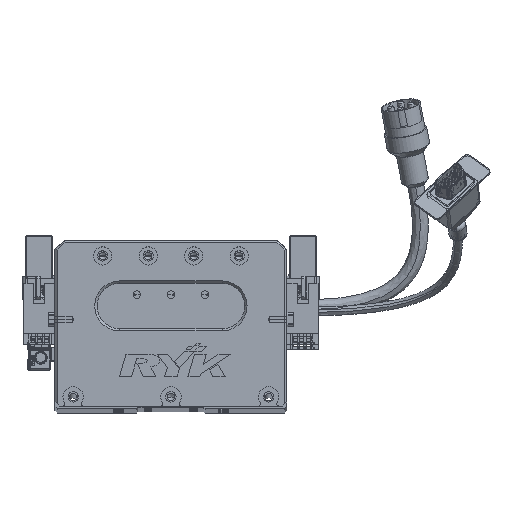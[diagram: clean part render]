
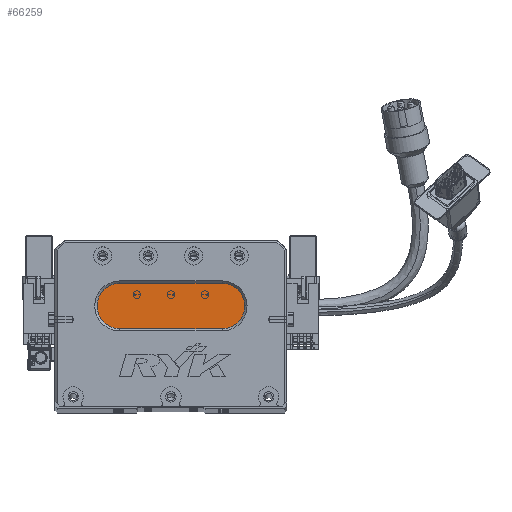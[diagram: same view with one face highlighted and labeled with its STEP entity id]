
A CAD part, top view. The second image highlights one B-rep face of the part: STEP entity #66259.
In plain terms, the highlighted planar face has unit normal (0, 0, 1) as drawn and (0, 0, -1) by its records, which use the part's own axes.
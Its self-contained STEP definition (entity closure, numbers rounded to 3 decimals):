
#3388 = AXIS2_PLACEMENT_3D ( 'NONE', #61477, #11813, #6789 ) ;
#3701 = VERTEX_POINT ( 'NONE', #4792 ) ;
#4792 = CARTESIAN_POINT ( 'NONE',  ( 73.5, 34., 13. ) ) ;
#6789 = DIRECTION ( 'NONE',  ( -1., 0., 0. ) ) ;
#8341 = LINE ( 'NONE', #43840, #32254 ) ;
#8835 = EDGE_LOOP ( 'NONE', ( #37015, #34577, #13209, #67744, #22060 ) ) ;
#11131 = DIRECTION ( 'NONE',  ( -1., 0., 0. ) ) ;
#11813 = DIRECTION ( 'NONE',  ( 0., 0., -1. ) ) ;
#12441 = VERTEX_POINT ( 'NONE', #20761 ) ;
#12834 = DIRECTION ( 'NONE',  ( -1., 0., 0. ) ) ;
#13209 = ORIENTED_EDGE ( 'NONE', *, *, #50929, .T. ) ;
#14146 = DIRECTION ( 'NONE',  ( 0., 0., -1. ) ) ;
#14448 = VERTEX_POINT ( 'NONE', #33965 ) ;
#16335 = VERTEX_POINT ( 'NONE', #37032 ) ;
#20761 = CARTESIAN_POINT ( 'NONE',  ( 73.5, 54., 13. ) ) ;
#21291 = CIRCLE ( 'NONE', #53017, 10. ) ;
#21347 = DIRECTION ( 'NONE',  ( 1., 0., 0. ) ) ;
#22060 = ORIENTED_EDGE ( 'NONE', *, *, #49436, .T. ) ;
#26123 = VERTEX_POINT ( 'NONE', #42013 ) ;
#27084 = CARTESIAN_POINT ( 'NONE',  ( 73.5, 54., 13. ) ) ;
#29173 = DIRECTION ( 'NONE',  ( -1., 0., 0. ) ) ;
#30768 = LINE ( 'NONE', #27084, #35866 ) ;
#31579 = EDGE_CURVE ( 'NONE', #3701, #26123, #8341, .T. ) ;
#32254 = VECTOR ( 'NONE', #11131, 1000. ) ;
#32670 = FACE_OUTER_BOUND ( 'NONE', #8835, .T. ) ;
#33089 = EDGE_CURVE ( 'NONE', #16335, #14448, #21291, .T. ) ;
#33965 = CARTESIAN_POINT ( 'NONE',  ( 28.5, 54., 13. ) ) ;
#34092 = DIRECTION ( 'NONE',  ( 0., 0., -1. ) ) ;
#34577 = ORIENTED_EDGE ( 'NONE', *, *, #31579, .T. ) ;
#35866 = VECTOR ( 'NONE', #21347, 1000. ) ;
#37015 = ORIENTED_EDGE ( 'NONE', *, *, #47064, .T. ) ;
#37032 = CARTESIAN_POINT ( 'NONE',  ( 18.5, 44., 13. ) ) ;
#39811 = CARTESIAN_POINT ( 'NONE',  ( 28.5, 44., 13. ) ) ;
#42013 = CARTESIAN_POINT ( 'NONE',  ( 28.5, 34., 13. ) ) ;
#43840 = CARTESIAN_POINT ( 'NONE',  ( 73.5, 34., 13. ) ) ;
#46327 = CARTESIAN_POINT ( 'NONE',  ( 73.5, 44., 13. ) ) ;
#46874 = CARTESIAN_POINT ( 'NONE',  ( 28.5, 44., 13. ) ) ;
#47064 = EDGE_CURVE ( 'NONE', #12441, #3701, #50169, .T. ) ;
#49436 = EDGE_CURVE ( 'NONE', #14448, #12441, #30768, .T. ) ;
#50169 = CIRCLE ( 'NONE', #3388, 10. ) ;
#50929 = EDGE_CURVE ( 'NONE', #26123, #16335, #63026, .T. ) ;
#53017 = AXIS2_PLACEMENT_3D ( 'NONE', #39811, #34092, #12834 ) ;
#53765 = AXIS2_PLACEMENT_3D ( 'NONE', #46327, #57096, #29173 ) ;
#57096 = DIRECTION ( 'NONE',  ( 0., 0., -1. ) ) ;
#57159 = DIRECTION ( 'NONE',  ( -1., 0., 0. ) ) ;
#57333 = PLANE ( 'NONE',  #53765 ) ;
#61477 = CARTESIAN_POINT ( 'NONE',  ( 73.5, 44., 13. ) ) ;
#62158 = AXIS2_PLACEMENT_3D ( 'NONE', #46874, #14146, #57159 ) ;
#63026 = CIRCLE ( 'NONE', #62158, 10. ) ;
#66259 = ADVANCED_FACE ( 'NONE', ( #32670 ), #57333, .T. ) ;
#67744 = ORIENTED_EDGE ( 'NONE', *, *, #33089, .T. ) ;
